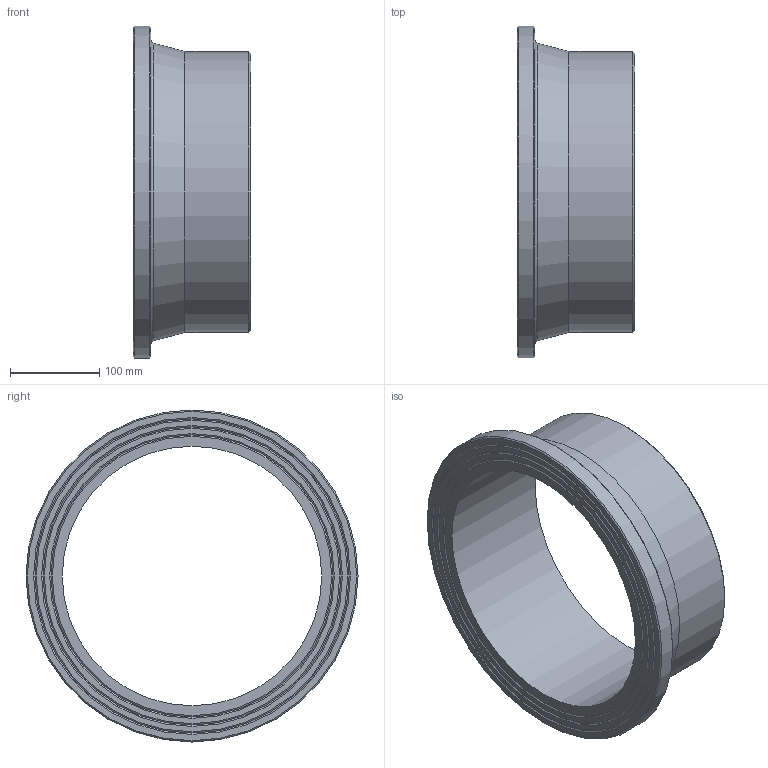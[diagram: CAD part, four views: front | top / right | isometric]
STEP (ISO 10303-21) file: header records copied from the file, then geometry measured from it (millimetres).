
FILE_DESCRIPTION(/* description */ ('Unknown'),/* implementation_level */ '2;1');
FILE_NAME(/* name */ 'CCP315A',/* time_stamp */ '2022-04-05T10:22:37+02:00',/* author */ ('Unknown'),/* organization */ ('Unknown'),/* preprocessor_version */ 'ST-DEVELOPER v18.1',/* originating_system */ 'Solid Edge',/* authorisation */ 'Unknown');
FILE_SCHEMA (('AUTOMOTIVE_DESIGN {1 0 10303 214 3 1 1}'));
Length unit declared in the file: millimetre
Products named in the file (1): CCP315A
Bounding box: 132 x 372 x 372 mm (x, y, z)
Volume: 2318024.1 mm3; surface area: 329438.2 mm2
Topology: 1 solids, 1 shells, 20 faces, 35 edges, 21 vertices
Faces by surface type: cone 10, plane 6, cylinder 3, torus 1
Full cylindrical faces by diameter (mm): 290.8 x1, 315 x1, 372 x1
Entity records: 438 total; most frequent: DIRECTION 82, CARTESIAN_POINT 61, AXIS2_PLACEMENT_3D 41, ORIENTED_EDGE 40, EDGE_LOOP 40, FACE_BOUND 40, EDGE_CURVE 20, VERTEX_POINT 20
